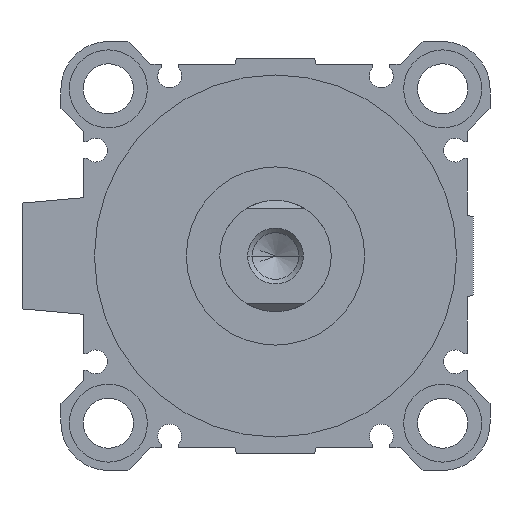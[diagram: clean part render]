
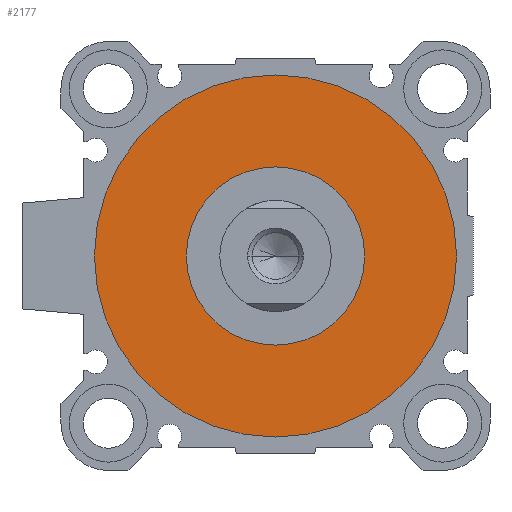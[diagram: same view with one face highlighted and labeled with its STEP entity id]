
A CAD part, left-side view. The second image highlights one B-rep face of the part: STEP entity #2177.
In plain terms, the highlighted planar face has unit normal (-1, 0, 0).
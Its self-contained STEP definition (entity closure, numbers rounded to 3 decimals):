
#61 = CARTESIAN_POINT ( 'NONE',  ( 4., 0., 16. ) ) ;
#105 = ORIENTED_EDGE ( 'NONE', *, *, #4715, .T. ) ;
#237 = DIRECTION ( 'NONE',  ( 1., 0., 0. ) ) ;
#619 = VERTEX_POINT ( 'NONE', #4348 ) ;
#951 = ORIENTED_EDGE ( 'NONE', *, *, #2215, .T. ) ;
#1198 = DIRECTION ( 'NONE',  ( 1., 0., 0. ) ) ;
#1431 = CIRCLE ( 'NONE', #1955, 16. ) ;
#1951 = AXIS2_PLACEMENT_3D ( 'NONE', #4366, #3472, #2168 ) ;
#1955 = AXIS2_PLACEMENT_3D ( 'NONE', #2360, #1956, #4041 ) ;
#1956 = DIRECTION ( 'NONE',  ( 1., 0., 0. ) ) ;
#2157 = CARTESIAN_POINT ( 'NONE',  ( 4., 0., 32.5 ) ) ;
#2168 = DIRECTION ( 'NONE',  ( 0., 0., -1. ) ) ;
#2177 = ADVANCED_FACE ( 'NONE', ( #5311, #3608 ), #3246, .F. ) ;
#2215 = EDGE_CURVE ( 'NONE', #4383, #619, #1431, .T. ) ;
#2360 = CARTESIAN_POINT ( 'NONE',  ( 4., 0., 0. ) ) ;
#2636 = CIRCLE ( 'NONE', #3432, 16. ) ;
#2729 = AXIS2_PLACEMENT_3D ( 'NONE', #2881, #5354, #4997 ) ;
#2805 = ORIENTED_EDGE ( 'NONE', *, *, #3902, .F. ) ;
#2881 = CARTESIAN_POINT ( 'NONE',  ( 4., 0., 0. ) ) ;
#3138 = VERTEX_POINT ( 'NONE', #2157 ) ;
#3246 = PLANE ( 'NONE',  #4147 ) ;
#3432 = AXIS2_PLACEMENT_3D ( 'NONE', #5407, #1198, #4545 ) ;
#3472 = DIRECTION ( 'NONE',  ( 1., 0., 0. ) ) ;
#3608 = FACE_BOUND ( 'NONE', #5217, .T. ) ;
#3902 = EDGE_CURVE ( 'NONE', #4730, #3138, #4490, .T. ) ;
#3990 = CARTESIAN_POINT ( 'NONE',  ( 4., 0., 0. ) ) ;
#4041 = DIRECTION ( 'NONE',  ( 0., 0., -1. ) ) ;
#4136 = CARTESIAN_POINT ( 'NONE',  ( 4., 0., -32.5 ) ) ;
#4147 = AXIS2_PLACEMENT_3D ( 'NONE', #3990, #237, #4866 ) ;
#4348 = CARTESIAN_POINT ( 'NONE',  ( 4., 0., -16. ) ) ;
#4366 = CARTESIAN_POINT ( 'NONE',  ( 4., 0., 0. ) ) ;
#4383 = VERTEX_POINT ( 'NONE', #61 ) ;
#4490 = CIRCLE ( 'NONE', #1951, 32.5 ) ;
#4545 = DIRECTION ( 'NONE',  ( 0., 0., -1. ) ) ;
#4659 = CIRCLE ( 'NONE', #2729, 32.5 ) ;
#4715 = EDGE_CURVE ( 'NONE', #619, #4383, #2636, .T. ) ;
#4730 = VERTEX_POINT ( 'NONE', #4136 ) ;
#4789 = EDGE_LOOP ( 'NONE', ( #4957, #2805 ) ) ;
#4866 = DIRECTION ( 'NONE',  ( 0., 1., 0. ) ) ;
#4957 = ORIENTED_EDGE ( 'NONE', *, *, #5283, .F. ) ;
#4997 = DIRECTION ( 'NONE',  ( 0., 0., -1. ) ) ;
#5217 = EDGE_LOOP ( 'NONE', ( #951, #105 ) ) ;
#5283 = EDGE_CURVE ( 'NONE', #3138, #4730, #4659, .T. ) ;
#5311 = FACE_OUTER_BOUND ( 'NONE', #4789, .T. ) ;
#5354 = DIRECTION ( 'NONE',  ( 1., 0., 0. ) ) ;
#5407 = CARTESIAN_POINT ( 'NONE',  ( 4., 0., 0. ) ) ;
